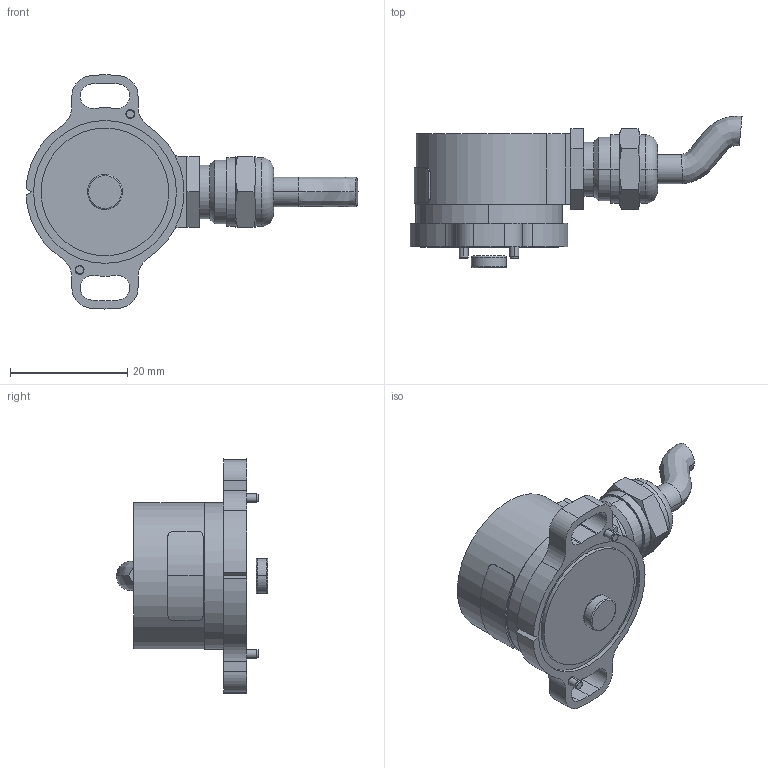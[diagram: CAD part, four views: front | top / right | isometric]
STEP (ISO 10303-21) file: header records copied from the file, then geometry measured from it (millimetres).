
FILE_DESCRIPTION (( 'STEP AP203' ), '1' );
FILE_NAME ('HTx Kit PG R P.STEP', '2022-07-29T10:27:49', ( '' ), ( '' ), 'SwSTEP 2.0', 'SolidWorks 2022', '' );
FILE_SCHEMA (( 'CONFIG_CONTROL_DESIGN' ));
Length unit declared in the file: millimetre
Products named in the file (1): HTx Kit PG R P
Bounding box: 56.72 x 25.88 x 39.98 mm (x, y, z)
Surface area: 5361.1 mm2 (no closed solid volume)
Topology: 0 solids, 8 shells, 133 faces, 325 edges, 210 vertices
Faces by surface type: cylinder 63, plane 42, cone 20, torus 6, bspline 2
Entity records: 4481 total; most frequent: CARTESIAN_POINT 1211, DIRECTION 709, ORIENTED_EDGE 624, EDGE_CURVE 325, AXIS2_PLACEMENT_3D 290, VERTEX_POINT 210, CIRCLE 158, EDGE_LOOP 153
